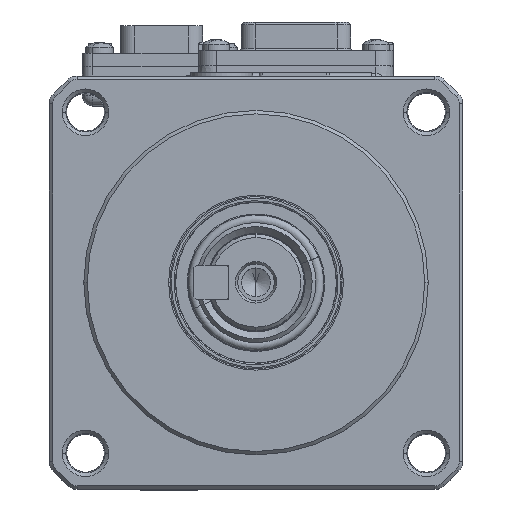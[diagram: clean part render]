
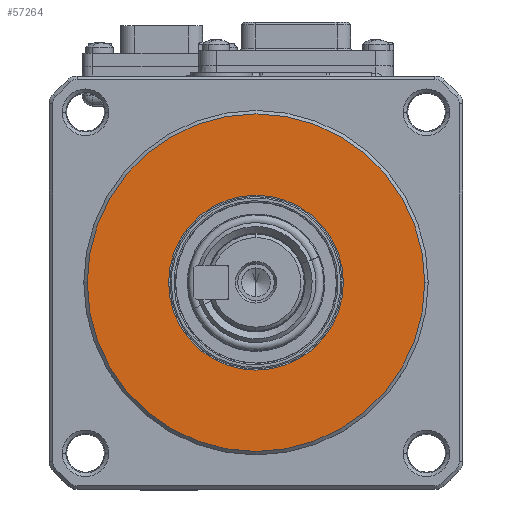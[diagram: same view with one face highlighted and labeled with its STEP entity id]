
A CAD part, top view. The second image highlights one B-rep face of the part: STEP entity #57264.
In plain terms, the highlighted planar face has unit normal (0, 0, 1).
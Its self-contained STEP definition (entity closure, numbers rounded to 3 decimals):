
#1329 = EDGE_LOOP ( 'NONE', ( #50406, #85576 ) ) ;
#5192 = CARTESIAN_POINT ( 'NONE',  ( 0., 12.2, 0. ) ) ;
#6272 = DIRECTION ( 'NONE',  ( -1., 0., 0. ) ) ;
#9629 = EDGE_LOOP ( 'NONE', ( #72458, #46362 ) ) ;
#12214 = CIRCLE ( 'NONE', #57126, 24.5 ) ;
#13052 = DIRECTION ( 'NONE',  ( 0., 0., -1. ) ) ;
#14055 = FACE_BOUND ( 'NONE', #1329, .T. ) ;
#14884 = DIRECTION ( 'NONE',  ( 1., 0., 0. ) ) ;
#15771 = DIRECTION ( 'NONE',  ( 0., 0., -1. ) ) ;
#15966 = DIRECTION ( 'NONE',  ( 0., 0., 1. ) ) ;
#16776 = DIRECTION ( 'NONE',  ( -1., 0., 0. ) ) ;
#19356 = EDGE_CURVE ( 'NONE', #90660, #98294, #69291, .T. ) ;
#21334 = AXIS2_PLACEMENT_3D ( 'NONE', #80265, #15771, #16776 ) ;
#24764 = CARTESIAN_POINT ( 'NONE',  ( 0., 0., 0. ) ) ;
#26463 = EDGE_CURVE ( 'NONE', #52761, #90311, #100625, .T. ) ;
#28154 = FACE_OUTER_BOUND ( 'NONE', #9629, .T. ) ;
#28802 = AXIS2_PLACEMENT_3D ( 'NONE', #5192, #36980, #68698 ) ;
#29725 = PLANE ( 'NONE',  #28802 ) ;
#31654 = DIRECTION ( 'NONE',  ( 1., 0., 0. ) ) ;
#35993 = CARTESIAN_POINT ( 'NONE',  ( 0., 0., 0. ) ) ;
#36980 = DIRECTION ( 'NONE',  ( 0., 0., -1. ) ) ;
#40229 = CARTESIAN_POINT ( 'NONE',  ( -24.5, 0., 0. ) ) ;
#46362 = ORIENTED_EDGE ( 'NONE', *, *, #26463, .T. ) ;
#50406 = ORIENTED_EDGE ( 'NONE', *, *, #19356, .T. ) ;
#52761 = VERTEX_POINT ( 'NONE', #97059 ) ;
#57126 = AXIS2_PLACEMENT_3D ( 'NONE', #24764, #95482, #14884 ) ;
#57264 = ADVANCED_FACE ( 'NONE', ( #14055, #28154 ), #29725, .F. ) ;
#63558 = CARTESIAN_POINT ( 'NONE',  ( -12.691, 0., 0. ) ) ;
#68260 = EDGE_CURVE ( 'NONE', #90311, #52761, #12214, .T. ) ;
#68698 = DIRECTION ( 'NONE',  ( -1., 0., 0. ) ) ;
#69156 = AXIS2_PLACEMENT_3D ( 'NONE', #95561, #15966, #31654 ) ;
#69291 = CIRCLE ( 'NONE', #82510, 12.691 ) ;
#72458 = ORIENTED_EDGE ( 'NONE', *, *, #68260, .T. ) ;
#76151 = CIRCLE ( 'NONE', #21334, 12.691 ) ;
#79554 = CARTESIAN_POINT ( 'NONE',  ( 12.691, 0., 0. ) ) ;
#80265 = CARTESIAN_POINT ( 'NONE',  ( 0., 0., 0. ) ) ;
#82510 = AXIS2_PLACEMENT_3D ( 'NONE', #35993, #13052, #6272 ) ;
#83635 = EDGE_CURVE ( 'NONE', #98294, #90660, #76151, .T. ) ;
#85576 = ORIENTED_EDGE ( 'NONE', *, *, #83635, .T. ) ;
#90311 = VERTEX_POINT ( 'NONE', #40229 ) ;
#90660 = VERTEX_POINT ( 'NONE', #63558 ) ;
#95482 = DIRECTION ( 'NONE',  ( 0., 0., 1. ) ) ;
#95561 = CARTESIAN_POINT ( 'NONE',  ( 0., 0., 0. ) ) ;
#97059 = CARTESIAN_POINT ( 'NONE',  ( 24.5, 0., 0. ) ) ;
#98294 = VERTEX_POINT ( 'NONE', #79554 ) ;
#100625 = CIRCLE ( 'NONE', #69156, 24.5 ) ;
